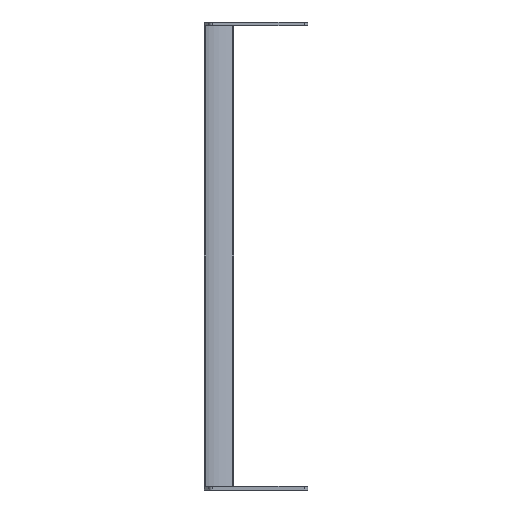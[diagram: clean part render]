
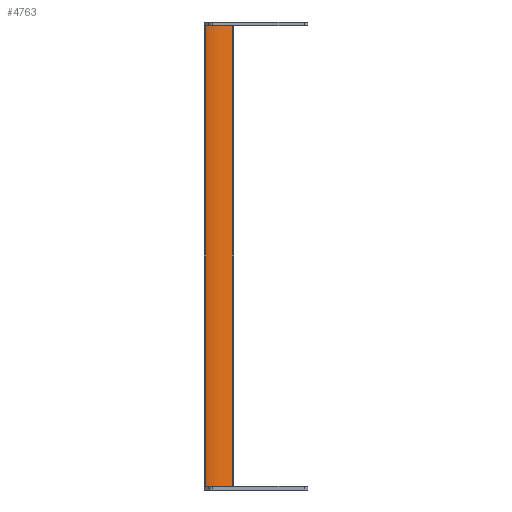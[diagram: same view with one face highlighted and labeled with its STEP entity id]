
A CAD part, left-side view. The second image highlights one B-rep face of the part: STEP entity #4763.
In plain terms, the highlighted cylindrical face has radius 40.64 mm (diameter 81.28 mm), a partial arc.
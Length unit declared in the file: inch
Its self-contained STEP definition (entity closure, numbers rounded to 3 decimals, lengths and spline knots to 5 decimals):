
#4457=DIRECTION('',(0.,0.,1.));
#4458=VECTOR('',#4457,16.236);
#4459=CARTESIAN_POINT('',(-0.98126,-0.05742,-8.118));
#4460=LINE('',#4459,#4458);
#4476=CARTESIAN_POINT('',(-1.63,-1.52,8.118));
#4477=DIRECTION('',(0.,0.,-1.));
#4478=DIRECTION('',(0.405,0.914,0.));
#4479=AXIS2_PLACEMENT_3D('',#4476,#4477,#4478);
#4520=CARTESIAN_POINT('',(-1.63,-1.52,-8.118));
#4521=DIRECTION('',(0.,0.,1.));
#4522=DIRECTION('',(0.946,0.325,0.));
#4523=AXIS2_PLACEMENT_3D('',#4520,#4521,#4522);
#4563=DIRECTION('',(0.,0.,1.));
#4564=VECTOR('',#4563,16.236);
#4565=CARTESIAN_POINT('',(-0.11675,-1.00032,-8.118));
#4566=LINE('',#4565,#4564);
#4607=CARTESIAN_POINT('',(-0.98126,-0.05742,-8.118));
#4609=VERTEX_POINT('',#4607);
#4621=CARTESIAN_POINT('',(-0.11675,-1.00032,8.118));
#4623=VERTEX_POINT('',#4621);
#4634=CARTESIAN_POINT('',(-0.11675,-1.00032,-8.118));
#4636=VERTEX_POINT('',#4634);
#4641=CARTESIAN_POINT('',(-0.98126,-0.05742,8.118));
#4642=VERTEX_POINT('',#4641);
#4751=CARTESIAN_POINT('',(-1.63,-1.52,8.118));
#4752=DIRECTION('',(0.,0.,-1.));
#4753=DIRECTION('',(-1.,0.,0.));
#4754=AXIS2_PLACEMENT_3D('',#4751,#4752,#4753);
#4755=CYLINDRICAL_SURFACE('',#4754,1.6);
#4756=ORIENTED_EDGE('',*,*,#4727,.T.);
#4757=ORIENTED_EDGE('',*,*,#4666,.T.);
#4758=ORIENTED_EDGE('',*,*,#4688,.T.);
#4760=ORIENTED_EDGE('',*,*,#4759,.F.);
#4761=EDGE_LOOP('',(#4756,#4757,#4758,#4760));
#4762=FACE_OUTER_BOUND('',#4761,.F.);
#4480=CIRCLE('',#4479,1.6);
#4524=CIRCLE('',#4523,1.6);
#4666=EDGE_CURVE('',#4609,#4642,#4460,.T.);
#4688=EDGE_CURVE('',#4642,#4623,#4480,.T.);
#4727=EDGE_CURVE('',#4636,#4609,#4524,.T.);
#4759=EDGE_CURVE('',#4636,#4623,#4566,.T.);
#4763=ADVANCED_FACE('',(#4762),#4755,.F.);
